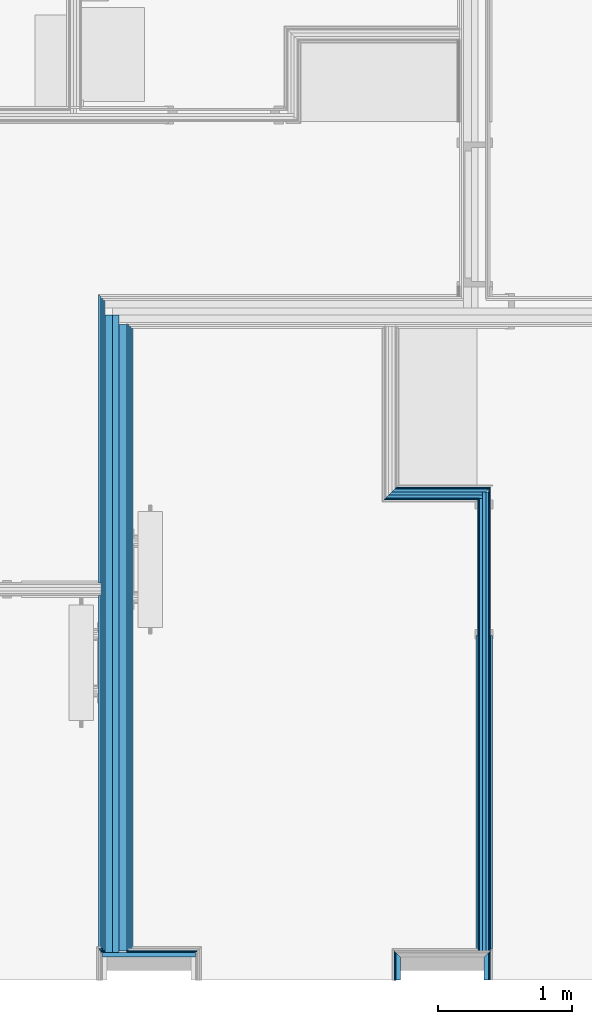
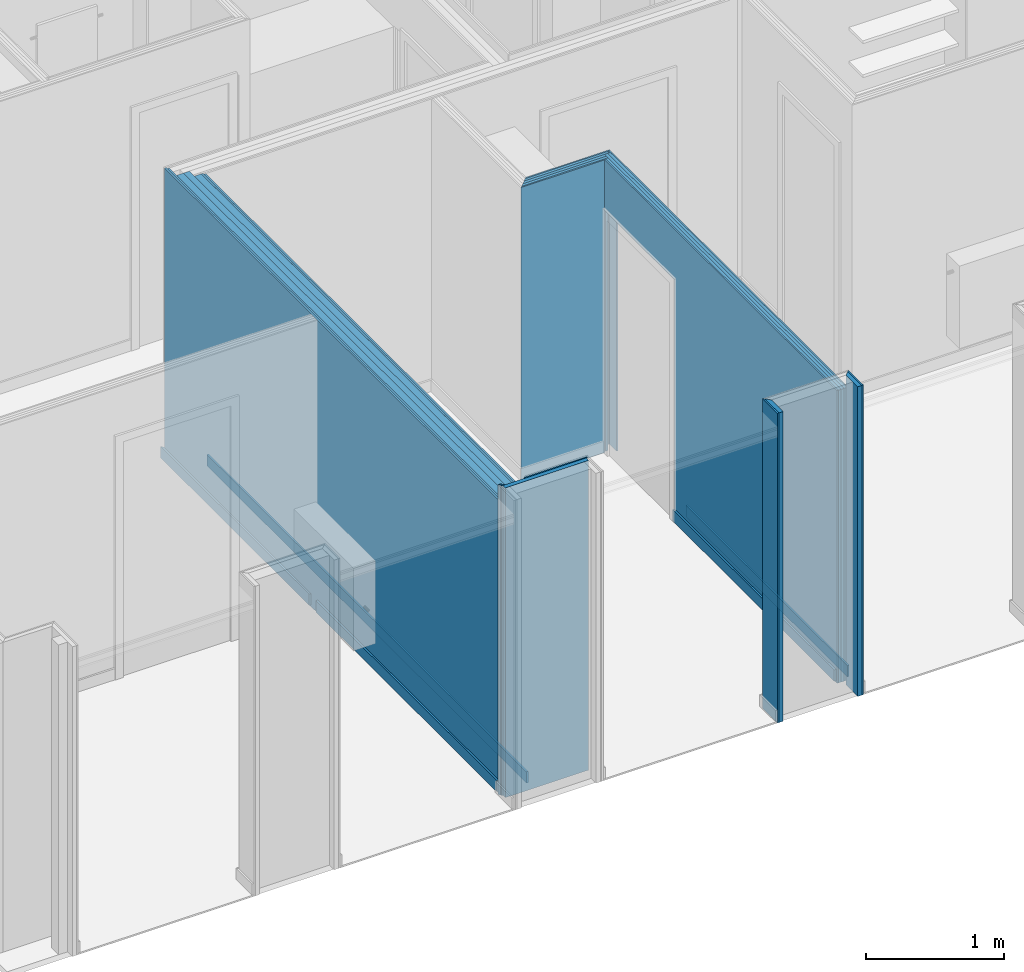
# One storey, part 8 of 85: 30 building element parts, 2 openings, 6 elements without a shape of their own.
"""IFC2X3 building model written with IfcOpenShell, lengths in metres."""

from ifc_helpers import new_model, entity, si_unit, converted_unit, derived_unit, money_unit, direction, frame, frame_2d, origin_with_axes, place, context, subcontext, project, spatial, polyline, rectangle, outline, extrude, material, type_object, element, aggregate, save


model = new_model("IFC2X3")

# Units and contexts
model_context = context("Model", 3, precision=1e-05, world=origin_with_axes(), true_north=direction((0.0, 1.0)))
body_context = subcontext(model_context, "Body", "Model", "MODEL_VIEW", scale=1.0)
ifc_project = project(units=[si_unit("LENGTHUNIT", "METRE"), si_unit("AREAUNIT", "SQUARE_METRE"), si_unit("VOLUMEUNIT", "CUBIC_METRE"), si_unit("ABSORBEDDOSEUNIT", "GRAY"), si_unit("AMOUNTOFSUBSTANCEUNIT", "MOLE"), si_unit("DOSEEQUIVALENTUNIT", "SIEVERT"), si_unit("ELECTRICCAPACITANCEUNIT", "FARAD"), si_unit("ELECTRICCHARGEUNIT", "COULOMB"), si_unit("ELECTRICCONDUCTANCEUNIT", "SIEMENS"), si_unit("ELECTRICCURRENTUNIT", "AMPERE"), si_unit("ELECTRICRESISTANCEUNIT", "OHM"), si_unit("ELECTRICVOLTAGEUNIT", "VOLT"), si_unit("ENERGYUNIT", "JOULE"), si_unit("FORCEUNIT", "NEWTON"), si_unit("FREQUENCYUNIT", "HERTZ"), si_unit("ILLUMINANCEUNIT", "LUX"), si_unit("INDUCTANCEUNIT", "HENRY"), si_unit("LUMINOUSFLUXUNIT", "LUMEN"), si_unit("LUMINOUSINTENSITYUNIT", "CANDELA"), si_unit("MAGNETICFLUXDENSITYUNIT", "TESLA"), si_unit("MAGNETICFLUXUNIT", "WEBER"), si_unit("MASSUNIT", "GRAM"), converted_unit("PLANEANGLEUNIT", "degree", entity("IfcReal", 0.0174532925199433), si_unit("PLANEANGLEUNIT", "RADIAN"), dimensions=[0, 0, 0, 0, 0, 0, 0]), si_unit("POWERUNIT", "WATT"), si_unit("PRESSUREUNIT", "PASCAL"), si_unit("RADIOACTIVITYUNIT", "BECQUEREL"), si_unit("SOLIDANGLEUNIT", "STERADIAN"), si_unit("THERMODYNAMICTEMPERATUREUNIT", "KELVIN"), si_unit("TIMEUNIT", "SECOND"), derived_unit("ACCELERATIONUNIT", [(si_unit("LENGTHUNIT", "METRE"), 1), (si_unit("TIMEUNIT", "SECOND"), -2)]), derived_unit("ANGULARVELOCITYUNIT", [(converted_unit("PLANEANGLEUNIT", "degree", entity("IfcReal", 0.0174532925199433), si_unit("PLANEANGLEUNIT", "RADIAN"), dimensions=[0, 0, 0, 0, 0, 0, 0]), 1), (si_unit("TIMEUNIT", "SECOND"), -1)]), derived_unit("CURVATUREUNIT", [(converted_unit("PLANEANGLEUNIT", "degree", entity("IfcReal", 0.0174532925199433), si_unit("PLANEANGLEUNIT", "RADIAN"), dimensions=[0, 0, 0, 0, 0, 0, 0]), 1), (si_unit("LENGTHUNIT", "METRE"), -1)]), derived_unit("DYNAMICVISCOSITYUNIT", [(si_unit("PRESSUREUNIT", "PASCAL"), 1), (si_unit("TIMEUNIT", "SECOND"), 1)]), derived_unit("HEATFLUXDENSITYUNIT", [(si_unit("POWERUNIT", "WATT"), 1), (si_unit("LENGTHUNIT", "METRE"), -2)]), derived_unit("HEATINGVALUEUNIT", [(si_unit("ENERGYUNIT", "JOULE"), 1), (si_unit("MASSUNIT", "GRAM"), -1)]), derived_unit("INTEGERCOUNTRATEUNIT", [(si_unit("TIMEUNIT", "SECOND"), -1)]), derived_unit("IONCONCENTRATIONUNIT", [(si_unit("MASSUNIT", "GRAM"), 1), (si_unit("VOLUMEUNIT", "CUBIC_METRE"), -1)]), derived_unit("ISOTHERMALMOISTURECAPACITYUNIT", [(si_unit("VOLUMEUNIT", "CUBIC_METRE"), 1), (si_unit("MASSUNIT", "GRAM"), -1)]), derived_unit("KINEMATICVISCOSITYUNIT", [(si_unit("AREAUNIT", "SQUARE_METRE"), 1), (si_unit("TIMEUNIT", "SECOND"), -1)]), derived_unit("LINEARFORCEUNIT", [(si_unit("FORCEUNIT", "NEWTON"), 1), (si_unit("LENGTHUNIT", "METRE"), -1)]), derived_unit("LINEARMOMENTUNIT", [(si_unit("FORCEUNIT", "NEWTON"), 1), (si_unit("LENGTHUNIT", "METRE"), -1)]), derived_unit("LINEARSTIFFNESSUNIT", [(si_unit("FORCEUNIT", "NEWTON"), 1), (si_unit("LENGTHUNIT", "METRE"), -1)]), derived_unit("LINEARVELOCITYUNIT", [(si_unit("LENGTHUNIT", "METRE"), 1), (si_unit("TIMEUNIT", "SECOND"), -1)]), derived_unit("LUMINOUSINTENSITYDISTRIBUTIONUNIT", [(si_unit("LUMINOUSINTENSITYUNIT", "CANDELA"), 1), (si_unit("LUMINOUSFLUXUNIT", "LUMEN"), -1)]), derived_unit("MASSDENSITYUNIT", [(si_unit("MASSUNIT", "GRAM"), 1), (si_unit("VOLUMEUNIT", "CUBIC_METRE"), -1)]), derived_unit("MASSFLOWRATEUNIT", [(si_unit("MASSUNIT", "GRAM"), 1), (si_unit("TIMEUNIT", "SECOND"), -1)]), derived_unit("MASSPERLENGTHUNIT", [(si_unit("MASSUNIT", "GRAM"), 1), (si_unit("LENGTHUNIT", "METRE"), -1)]), derived_unit("MODULUSOFELASTICITYUNIT", [(si_unit("FORCEUNIT", "NEWTON"), 1), (si_unit("AREAUNIT", "SQUARE_METRE"), -1)]), derived_unit("MODULUSOFLINEARSUBGRADEREACTIONUNIT", [(si_unit("FORCEUNIT", "NEWTON"), 1), (si_unit("LENGTHUNIT", "METRE"), -2)]), derived_unit("MODULUSOFROTATIONALSUBGRADEREACTIONUNIT", [(si_unit("FORCEUNIT", "NEWTON"), 1), (si_unit("LENGTHUNIT", "METRE"), 1)]), derived_unit("MODULUSOFSUBGRADEREACTIONUNIT", [(si_unit("FORCEUNIT", "NEWTON"), 1), (si_unit("VOLUMEUNIT", "CUBIC_METRE"), -1)]), derived_unit("MOISTUREDIFFUSIVITYUNIT", [(si_unit("VOLUMEUNIT", "CUBIC_METRE"), 1), (si_unit("TIMEUNIT", "SECOND"), -1)]), derived_unit("MOLECULARWEIGHTUNIT", [(si_unit("MASSUNIT", "GRAM"), 1), (si_unit("AMOUNTOFSUBSTANCEUNIT", "MOLE"), -1)]), derived_unit("PLANARFORCEUNIT", [(si_unit("FORCEUNIT", "NEWTON"), 1), (si_unit("LENGTHUNIT", "METRE"), -2)]), derived_unit("ROTATIONALFREQUENCYUNIT", [(si_unit("TIMEUNIT", "SECOND"), -1)]), derived_unit("ROTATIONALMASSUNIT", [(si_unit("MASSUNIT", "GRAM"), 1), (si_unit("LENGTHUNIT", "METRE"), 2)]), derived_unit("ROTATIONALSTIFFNESSUNIT", [(si_unit("FORCEUNIT", "NEWTON"), 1), (si_unit("LENGTHUNIT", "METRE"), 1), (converted_unit("PLANEANGLEUNIT", "degree", entity("IfcReal", 0.0174532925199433), si_unit("PLANEANGLEUNIT", "RADIAN"), dimensions=[0, 0, 0, 0, 0, 0, 0]), -1)]), derived_unit("SECTIONAREAINTEGRALUNIT", [(si_unit("LENGTHUNIT", "METRE"), 5)]), derived_unit("SECTIONMODULUSUNIT", [(si_unit("LENGTHUNIT", "METRE"), 3)]), derived_unit("SHEARMODULUSUNIT", [(si_unit("FORCEUNIT", "NEWTON"), 1), (si_unit("AREAUNIT", "SQUARE_METRE"), -1)]), derived_unit("SOUNDPOWERUNIT", [(si_unit("ENERGYUNIT", "JOULE"), 1), (si_unit("TIMEUNIT", "SECOND"), -1)]), derived_unit("SPECIFICHEATCAPACITYUNIT", [(si_unit("FORCEUNIT", "NEWTON"), 1), (si_unit("MASSUNIT", "GRAM"), -1), (si_unit("THERMODYNAMICTEMPERATUREUNIT", "KELVIN"), -1)]), derived_unit("TEMPERATUREGRADIENTUNIT", [(si_unit("THERMODYNAMICTEMPERATUREUNIT", "KELVIN"), 1), (si_unit("LENGTHUNIT", "METRE"), -1)]), derived_unit("THERMALADMITTANCEUNIT", [(si_unit("POWERUNIT", "WATT"), 1), (si_unit("AREAUNIT", "SQUARE_METRE"), -1), (si_unit("THERMODYNAMICTEMPERATUREUNIT", "KELVIN"), -1)]), derived_unit("THERMALCONDUCTANCEUNIT", [(si_unit("POWERUNIT", "WATT"), 1), (si_unit("LENGTHUNIT", "METRE"), -1), (si_unit("THERMODYNAMICTEMPERATUREUNIT", "KELVIN"), -1)]), derived_unit("THERMALEXPANSIONCOEFFICIENTUNIT", [(si_unit("THERMODYNAMICTEMPERATUREUNIT", "KELVIN"), -1)]), derived_unit("THERMALRESISTANCEUNIT", [(si_unit("AREAUNIT", "SQUARE_METRE"), 1), (si_unit("POWERUNIT", "WATT"), -1)]), derived_unit("THERMALTRANSMITTANCEUNIT", [(si_unit("POWERUNIT", "WATT"), 1), (si_unit("AREAUNIT", "SQUARE_METRE"), -1), (si_unit("THERMODYNAMICTEMPERATUREUNIT", "KELVIN"), -1)]), derived_unit("TORQUEUNIT", [(si_unit("FORCEUNIT", "NEWTON"), 1), (si_unit("LENGTHUNIT", "METRE"), 1)]), derived_unit("VAPORPERMEABILITYUNIT", [(si_unit("MASSUNIT", "GRAM"), 1), (si_unit("TIMEUNIT", "SECOND"), -1)]), derived_unit("VOLUMETRICFLOWRATEUNIT", [(si_unit("VOLUMEUNIT", "CUBIC_METRE"), 1), (si_unit("TIMEUNIT", "SECOND"), -1)]), derived_unit("WARPINGCONSTANTUNIT", [(si_unit("LENGTHUNIT", "METRE"), 6)]), derived_unit("WARPINGMOMENTUNIT", [(si_unit("FORCEUNIT", "NEWTON"), 1), (si_unit("LENGTHUNIT", "METRE"), 2)]), money_unit("GBP")], contexts=[model_context])

# Site, building, storey
site_placement = place(None, origin_with_axes())
site = spatial("IfcSite", under=ifc_project, at=site_placement, Name="Site", CompositionType="ELEMENT")
building_placement = place(site_placement, origin_with_axes())
building = spatial("IfcBuilding", under=site, at=building_placement, Name="Building01", CompositionType="ELEMENT")
storey_placement = place(building_placement, frame((0.0, 0.0, 12.13), z_axis=(0.0, 0.0, 1.0), x_axis=(1.0, 0.0, 0.0)))
storey = spatial("IfcBuildingStorey", under=building, at=storey_placement, Name="3F", CompositionType="ELEMENT", Elevation=12.13)

# Wall, building element parts
wall_type_1 = type_object("IfcWallType", Name="SHE_A-Walls_Type06d_ExternalWallInsulation_48mm", PredefinedType="NOTDEFINED")
wall_1_placement = place(storey_placement, frame((6.623, 0.1, 0.0), z_axis=(0.0, 0.0, 1.0), x_axis=(0.0, 1.0, 0.0)))
wall_1 = element("IfcWall", 1, at=wall_1_placement, inside=storey, type_object=wall_type_1, Name="6D", ObjectType="SHE_A-Walls_Type06d_ExternalWallInsulation_48mm")
ifc_material_1 = material(Name="A_BSUK_Insulation")
placement_1 = place(wall_1_placement, origin_with_axes())
building_element_part_1 = element("IfcBuildingElementPart", 2, at=placement_1, material=ifc_material_1, Name="1", context=body_context, shape_type="SweptSolid", body=[
    extrude(outline(polyline([(0.206, 0.036), (0.0, 0.036), (0.0, 0.0), (0.17, 0.0), (0.206, 0.036)])), origin_with_axes(), (0.0, 0.0, 1.0), 2.74),
])
ifc_material_2 = material(Name="A_BSUK_WallInternal_Finishes_Plasterboard")
building_element_part_2 = element("IfcBuildingElementPart", 3, at=placement_1, material=ifc_material_2, Name="2", context=body_context, shape_type="SweptSolid", body=[
    extrude(outline(polyline([(0.218, 0.048), (0.0, 0.048), (0.0, 0.035), (0.205, 0.035), (0.218, 0.048)])), origin_with_axes(), (0.0, 0.0, 1.0), 2.74),
])
aggregate(wall_1, [building_element_part_1, building_element_part_2])

wall_2_placement = place(storey_placement, frame((7.247, 0.27, 0.0), z_axis=(0.0, 0.0, 1.0), x_axis=(0.0, -1.0, 0.0)))
wall_2 = element("IfcWall", 4, at=wall_2_placement, inside=storey, type_object=wall_type_1, Name="6D", ObjectType="SHE_A-Walls_Type06d_ExternalWallInsulation_48mm")
placement_2 = place(wall_2_placement, origin_with_axes())
building_element_part_3 = element("IfcBuildingElementPart", 5, at=placement_2, material=ifc_material_1, Name="1", context=body_context, shape_type="SweptSolid", body=[
    extrude(outline(polyline([(-0.036, 0.036), (0.0, 0.0), (0.17, 0.0), (0.17, 0.036), (-0.036, 0.036)])), origin_with_axes(), (0.0, 0.0, 1.0), 2.74),
])
building_element_part_4 = element("IfcBuildingElementPart", 6, at=placement_2, material=ifc_material_2, Name="2", context=body_context, shape_type="SweptSolid", body=[
    extrude(outline(polyline([(-0.048, 0.048), (-0.035, 0.035), (0.17, 0.035), (0.17, 0.048), (-0.048, 0.048)])), origin_with_axes(), (0.0, 0.0, 1.0), 2.74),
])
aggregate(wall_2, [building_element_part_3, building_element_part_4])

wall_type_2 = type_object("IfcWallType", Name="SHE_A-Walls_Type01c_Partywall_225mm_twin_tall", PredefinedType="NOTDEFINED")
wall_3_placement = place(storey_placement, frame((4.522, 0.306, 0.0), z_axis=(0.0, 0.0, 1.0), x_axis=(0.0, 1.0, 0.0)))
wall_3 = element("IfcWall", 7, at=wall_3_placement, inside=storey, type_object=wall_type_2, Name="1C", ObjectType="SHE_A-Walls_Type01c_Partywall_225mm_twin_tall")
ifc_material_3 = material(Name="A_BSUK_Walls_Timber")
placement_3 = place(wall_3_placement, origin_with_axes())
building_element_part_5 = element("IfcBuildingElementPart", 8, at=placement_3, material=ifc_material_3, Name="1", context=body_context, shape_type="SweptSolid", body=[
    extrude(rectangle(XDim=4.632, YDim=0.015, at=frame_2d((2.343, -0.0955), x_axis=(-1.0, 0.0))), frame((0.0, 0.0, 0.015), z_axis=(0.0, 0.0, 1.0), x_axis=(1.0, 0.0, 0.0)), (0.0, 0.0, 1.0), 0.1),
])
building_element_part_6 = element("IfcBuildingElementPart", 9, at=placement_3, material=ifc_material_2, Name="2", context=body_context, shape_type="SweptSolid", body=[
    extrude(rectangle(XDim=4.647, YDim=0.015, at=frame_2d((2.3505, -0.0805), x_axis=(-1.0, 0.0))), origin_with_axes(), (0.0, 0.0, 1.0), 2.59),
])
building_element_part_7 = element("IfcBuildingElementPart", 10, at=placement_3, material=ifc_material_2, Name="3", context=body_context, shape_type="SweptSolid", body=[
    extrude(rectangle(XDim=4.677, YDim=0.015, at=frame_2d((2.3505, -0.0655), x_axis=(-1.0, 0.0))), origin_with_axes(), (0.0, 0.0, 1.0), 2.59),
])
ifc_material_4 = material(Name="Air Cavity")
building_element_part_8 = element("IfcBuildingElementPart", 11, at=placement_3, material=ifc_material_4, Name="4", context=body_context, shape_type="SweptSolid", body=[
    extrude(rectangle(XDim=4.677, YDim=0.058, at=frame_2d((2.3505, -0.029), x_axis=(-1.0, 0.0))), origin_with_axes(), (0.0, 0.0, 1.0), 2.59),
])
building_element_part_9 = element("IfcBuildingElementPart", 12, at=placement_3, material=ifc_material_1, Name="5", context=body_context, shape_type="SweptSolid", body=[
    extrude(rectangle(XDim=4.761, YDim=0.05, at=frame_2d((2.3805, 0.025), x_axis=(-1.0, 0.0))), origin_with_axes(), (0.0, 0.0, 1.0), 2.59),
])
building_element_part_10 = element("IfcBuildingElementPart", 13, at=placement_3, material=ifc_material_4, Name="6", context=body_context, shape_type="SweptSolid", body=[
    extrude(rectangle(XDim=4.761, YDim=0.057, at=frame_2d((2.3805, 0.0785), x_axis=(-1.0, 0.0))), origin_with_axes(), (0.0, 0.0, 1.0), 2.59),
])
building_element_part_11 = element("IfcBuildingElementPart", 14, at=placement_3, material=ifc_material_2, Name="7", context=body_context, shape_type="SweptSolid", body=[
    extrude(rectangle(XDim=4.857, YDim=0.015, at=frame_2d((2.4405, 0.1145), x_axis=(-1.0, 0.0))), origin_with_axes(), (0.0, 0.0, 1.0), 2.59),
])
building_element_part_12 = element("IfcBuildingElementPart", 15, at=placement_3, material=ifc_material_2, Name="8", context=body_context, shape_type="SweptSolid", body=[
    extrude(rectangle(XDim=4.857, YDim=0.015, at=frame_2d((2.4555, 0.1295), x_axis=(-1.0, 0.0))), origin_with_axes(), (0.0, 0.0, 1.0), 2.59),
])
building_element_part_13 = element("IfcBuildingElementPart", 16, at=placement_3, material=ifc_material_3, Name="9", context=body_context, shape_type="SweptSolid", body=[
    extrude(rectangle(XDim=2.622286, YDim=0.015, at=frame_2d((1.353143, 0.1445), x_axis=(-1.0, 0.0))), frame((0.0, 0.0, 0.015), z_axis=(0.0, 0.0, 1.0), x_axis=(1.0, 0.0, 0.0)), (0.0, 0.0, 1.0), 0.1),
])
building_element_part_14 = element("IfcBuildingElementPart", 17, at=placement_3, material=ifc_material_3, Name="10", context=body_context, shape_type="SweptSolid", body=[
    extrude(outline(polyline([(4.914, 0.152), (2.759286, 0.152), (2.759286, 0.137), (4.899, 0.137), (4.914, 0.152)])), frame((0.0, 0.0, 0.015), z_axis=(0.0, 0.0, 1.0), x_axis=(1.0, 0.0, 0.0)), (0.0, 0.0, 1.0), 0.1),
])
aggregate(wall_3, [building_element_part_5, building_element_part_6, building_element_part_7, building_element_part_8, building_element_part_9, building_element_part_10, building_element_part_11, building_element_part_12, building_element_part_13, building_element_part_14])

wall_type_3 = type_object("IfcWallType", Name="SHE_A-Walls_Type05a_Partition_95mm_tall", PredefinedType="NOTDEFINED")
wall_4_placement = place(storey_placement, frame((7.235, 3.72, 0.0), z_axis=(0.0, 0.0, 1.0), x_axis=(-1.0, 0.0, 0.0)))
wall_4 = element("IfcWall", 18, at=wall_4_placement, inside=storey, type_object=wall_type_3, Name="5A", ObjectType="SHE_A-Walls_Type05a_Partition_95mm_tall")
placement_4 = place(wall_4_placement, origin_with_axes())
building_element_part_15 = element("IfcBuildingElementPart", 19, at=placement_4, material=ifc_material_2, Name="2", context=body_context, shape_type="SweptSolid", body=[
    extrude(outline(polyline([(0.652, -0.048), (-0.048, -0.048), (-0.06, -0.06), (0.64, -0.06), (0.652, -0.048)])), origin_with_axes(), (0.0, 0.0, 1.0), 2.59),
])
building_element_part_16 = element("IfcBuildingElementPart", 20, at=placement_4, material=ifc_material_4, Name="3", context=body_context, shape_type="SweptSolid", body=[
    extrude(outline(polyline([(0.675, -0.025), (-0.025, -0.025), (-0.048, -0.048), (0.652, -0.048), (0.675, -0.025)])), origin_with_axes(), (0.0, 0.0, 1.0), 2.59),
])
building_element_part_17 = element("IfcBuildingElementPart", 21, at=placement_4, material=ifc_material_1, Name="4", context=body_context, shape_type="SweptSolid", body=[
    extrude(outline(polyline([(0.7, 0.0), (0.0, 0.0), (0.0, -0.025), (0.675, -0.025), (0.7, 0.0)])), origin_with_axes(), (0.0, 0.0, 1.0), 2.59),
])
building_element_part_18 = element("IfcBuildingElementPart", 22, at=placement_4, material=ifc_material_4, Name="5", context=body_context, shape_type="SweptSolid", body=[
    extrude(outline(polyline([(0.723, 0.023), (0.0, 0.023), (0.0, 0.0), (0.7, 0.0), (0.723, 0.023)])), origin_with_axes(), (0.0, 0.0, 1.0), 2.59),
])
building_element_part_19 = element("IfcBuildingElementPart", 23, at=placement_4, material=ifc_material_2, Name="6", context=body_context, shape_type="SweptSolid", body=[
    extrude(outline(polyline([(0.735, 0.035), (0.035, 0.035), (0.023, 0.023), (0.723, 0.023), (0.735, 0.035)])), origin_with_axes(), (0.0, 0.0, 1.0), 2.59),
])
aggregate(wall_4, [building_element_part_15, building_element_part_16, building_element_part_17, building_element_part_18, building_element_part_19])

# Wall, openings, building element parts
wall_5_placement = place(storey_placement, frame((7.26, 3.745, 0.0), z_axis=(0.0, 0.0, 1.0), x_axis=(0.0, -1.0, 0.0)))
wall_5 = element("IfcWall", 24, at=wall_5_placement, inside=storey, type_object=wall_type_3, Name="5A", ObjectType="SHE_A-Walls_Type05a_Partition_95mm_tall")
opening_1_placement = place(wall_5_placement, frame((0.129, -0.075, -0.015), z_axis=(0.0, 0.0, 1.0), x_axis=(1.0, 0.0, 0.0)))
element("IfcOpeningElement", 25, at=opening_1_placement, cuts=wall_5, Name="Opening", ObjectType="Opening", context=body_context, shape_type="SweptSolid", body=[
    extrude(outline(polyline([(0.0, 2.142), (-0.9, 2.142), (-0.9, 0.015), (-0.464219, 0.015), (-0.464219, 0.0), (0.0, 0.0), (0.0, 2.142)])), frame((0.0, 0.0, 0.0), z_axis=(0.0, 1.0, 0.0), x_axis=(-1.0, 0.0, 0.0)), (0.0, 0.0, 1.0), 0.125),
    extrude(outline(polyline([(0.619781, 2.157), (-0.942, 2.157), (-0.942, 0.015), (-0.464219, 0.015), (-0.464219, 0.0), (0.619781, 0.0), (0.619781, 2.157)])), frame((0.0, 0.015, 0.0), z_axis=(0.0, 1.0, 0.0), x_axis=(-1.0, 0.0, 0.0)), (0.0, 0.0, 1.0), 0.012),
    extrude(outline(polyline([(0.619781, 2.157), (-0.942, 2.157), (-0.942, 0.015), (-0.464219, 0.015), (-0.464219, 0.0), (0.619781, 0.0), (0.619781, 2.157)])), frame((0.0, 0.027, 0.0), z_axis=(0.0, 1.0, 0.0), x_axis=(-1.0, 0.0, 0.0)), (0.0, 0.0, 1.0), 0.023),
    extrude(outline(polyline([(0.619781, 2.157), (-0.942, 2.157), (-0.942, 0.015), (-0.464219, 0.015), (-0.464219, 0.0), (0.619781, 0.0), (0.619781, 2.157)])), frame((0.0, 0.05, 0.0), z_axis=(0.0, 1.0, 0.0), x_axis=(-1.0, 0.0, 0.0)), (0.0, 0.0, 1.0), 0.025),
    extrude(outline(polyline([(0.619781, 2.157), (-0.942, 2.157), (-0.942, 0.015), (-0.464219, 0.015), (-0.464219, 0.0), (0.619781, 0.0), (0.619781, 2.157)])), frame((0.0, 0.075, 0.0), z_axis=(0.0, 1.0, 0.0), x_axis=(-1.0, 0.0, 0.0)), (0.0, 0.0, 1.0), 0.023),
    extrude(rectangle(XDim=0.9, YDim=2.142, at=frame_2d((-0.45, 1.071), x_axis=(-1.0, 0.0))), frame((0.0, 0.098, 0.0), z_axis=(0.0, 1.0, 0.0), x_axis=(-1.0, 0.0, 0.0)), (0.0, 0.0, 1.0), 0.012),
    extrude(outline(polyline([(0.042, 2.142), (0.042, 2.157), (-0.942, 2.157), (-0.942, 0.015), (-0.464219, 0.015), (-0.464219, 0.0), (0.619781, 0.0), (0.619781, 2.142), (0.042, 2.142)])), frame((0.0, 0.0, 0.0), z_axis=(0.0, 1.0, 0.0), x_axis=(-1.0, 0.0, 0.0)), (0.0, 0.0, 1.0), 0.098),
    extrude(outline(polyline([(0.042, 2.142), (0.042, 2.157), (-0.942, 2.157), (-0.942, 0.015), (-0.464219, 0.015), (-0.464219, 0.0), (0.619781, 0.0), (0.619781, 2.142), (0.042, 2.142)])), frame((0.0, 0.11, 0.0), z_axis=(0.0, 1.0, 0.0), x_axis=(-1.0, 0.0, 0.0)), (0.0, 0.0, 1.0), 0.015),
])
opening_2_placement = place(wall_5_placement, frame((0.087, 0.023, 0.0), z_axis=(0.0, 0.0, 1.0), x_axis=(1.0, 0.0, 0.0)))
element("IfcOpeningElement", 26, at=opening_2_placement, cuts=wall_5, Name="Opening", ObjectType="Recess", context=body_context, shape_type="SweptSolid", body=[
    extrude(rectangle(XDim=2.142, YDim=0.984, at=frame_2d((-0.492, 1.071), x_axis=(0.0, 1.0))), frame((0.0, 0.0, 0.0), z_axis=(0.0, 1.0, 0.0), x_axis=(-1.0, 0.0, 0.0)), (0.0, 0.0, 1.0), 0.012),
])
placement_5 = place(wall_5_placement, origin_with_axes())
building_element_part_20 = element("IfcBuildingElementPart", 27, at=placement_5, material=ifc_material_3, Name="1", context=body_context, shape_type="SweptSolid", body=[
    extrude(outline(polyline([(3.412, -0.06), (0.06, -0.06), (0.075, -0.075), (3.412, -0.075), (3.412, -0.06)])), frame((0.0, 0.0, 0.015), z_axis=(0.0, 0.0, 1.0), x_axis=(1.0, 0.0, 0.0)), (0.0, 0.0, 1.0), 0.1),
])
building_element_part_21 = element("IfcBuildingElementPart", 28, at=placement_5, material=ifc_material_2, Name="2", context=body_context, shape_type="SweptSolid", body=[
    extrude(outline(polyline([(3.427, -0.048), (0.048, -0.048), (0.06, -0.06), (3.427, -0.06), (3.427, -0.048)])), origin_with_axes(), (0.0, 0.0, 1.0), 2.59),
])
building_element_part_22 = element("IfcBuildingElementPart", 29, at=placement_5, material=ifc_material_4, Name="3", context=body_context, shape_type="SweptSolid", body=[
    extrude(outline(polyline([(3.427, -0.025), (0.025, -0.025), (0.048, -0.048), (3.427, -0.048), (3.427, -0.025)])), origin_with_axes(), (0.0, 0.0, 1.0), 2.59),
])
building_element_part_23 = element("IfcBuildingElementPart", 30, at=placement_5, material=ifc_material_1, Name="4", context=body_context, shape_type="SweptSolid", body=[
    extrude(rectangle(XDim=3.427, YDim=0.025, at=frame_2d((1.7135, -0.0125), x_axis=(-1.0, 0.0))), origin_with_axes(), (0.0, 0.0, 1.0), 2.59),
])
building_element_part_24 = element("IfcBuildingElementPart", 31, at=placement_5, material=ifc_material_4, Name="5", context=body_context, shape_type="SweptSolid", body=[
    extrude(rectangle(XDim=3.427, YDim=0.023, at=frame_2d((1.7135, 0.0115), x_axis=(-1.0, 0.0))), origin_with_axes(), (0.0, 0.0, 1.0), 2.59),
])
building_element_part_25 = element("IfcBuildingElementPart", 32, at=placement_5, material=ifc_material_2, Name="6", context=body_context, shape_type="SweptSolid", body=[
    extrude(outline(polyline([(3.427, 0.035), (-0.035, 0.035), (-0.023, 0.023), (3.427, 0.023), (3.427, 0.035)])), origin_with_axes(), (0.0, 0.0, 1.0), 2.59),
])
building_element_part_26 = element("IfcBuildingElementPart", 33, at=placement_5, material=ifc_material_3, Name="7", context=body_context, shape_type="SweptSolid", body=[
    extrude(outline(polyline([(3.412, 0.05), (-0.05, 0.05), (-0.035, 0.035), (3.412, 0.035), (3.412, 0.05)])), frame((0.0, 0.0, 0.015), z_axis=(0.0, 0.0, 1.0), x_axis=(1.0, 0.0, 0.0)), (0.0, 0.0, 1.0), 0.1),
])
aggregate(wall_5, [building_element_part_20, building_element_part_21, building_element_part_22, building_element_part_23, building_element_part_24, building_element_part_25, building_element_part_26])

# Wall, building element parts
wall_type_4 = type_object("IfcWallType", Name="SHE_A-Walls_Type06f_ExternalWallInsulation_48+15mm", PredefinedType="NOTDEFINED")
wall_6_placement = place(storey_placement, frame((5.093124, 0.27, 0.0), z_axis=(0.0, 0.0, 1.0), x_axis=(-1.0, 0.0, 0.0)))
wall_6 = element("IfcWall", 34, at=wall_6_placement, inside=storey, type_object=wall_type_4, Name="6F", ObjectType="SHE_A-Walls_Type06f_ExternalWallInsulation_48+15mm")
placement_6 = place(wall_6_placement, origin_with_axes())
building_element_part_27 = element("IfcBuildingElementPart", 35, at=placement_6, material=ifc_material_2, Name="4", context=body_context, shape_type="SweptSolid", body=[
    extrude(outline(polyline([(0.708124, -0.048), (0.693124, -0.048), (0.693124, -0.063), (0.723124, -0.063), (0.708124, -0.048)])), origin_with_axes(), (0.0, 0.0, 1.0), 2.74),
])
building_element_part_28 = element("IfcBuildingElementPart", 36, at=placement_6, material=ifc_material_2, Name="5", context=body_context, shape_type="SweptSolid", body=[
    extrude(rectangle(XDim=0.525124, YDim=0.012, at=frame_2d((0.250562, -0.042), x_axis=(-1.0, 0.0))), origin_with_axes(), (0.0, 0.0, 1.0), 2.74),
])
building_element_part_29 = element("IfcBuildingElementPart", 37, at=placement_6, material=ifc_material_2, Name="6", context=body_context, shape_type="SweptSolid", body=[
    extrude(rectangle(XDim=0.03, YDim=0.012, at=frame_2d((0.693124, -0.042), x_axis=(-1.0, 0.0))), origin_with_axes(), (0.0, 0.0, 1.0), 2.74),
])
building_element_part_30 = element("IfcBuildingElementPart", 38, at=placement_6, material=ifc_material_1, Name="7", context=body_context, shape_type="SweptSolid", body=[
    extrude(rectangle(XDim=0.696124, YDim=0.036, at=frame_2d((0.348062, -0.018), x_axis=(-1.0, 0.0))), origin_with_axes(), (0.0, 0.0, 1.0), 2.74),
])
aggregate(wall_6, [building_element_part_27, building_element_part_28, building_element_part_29, building_element_part_30])

save(model, "model.ifc")
